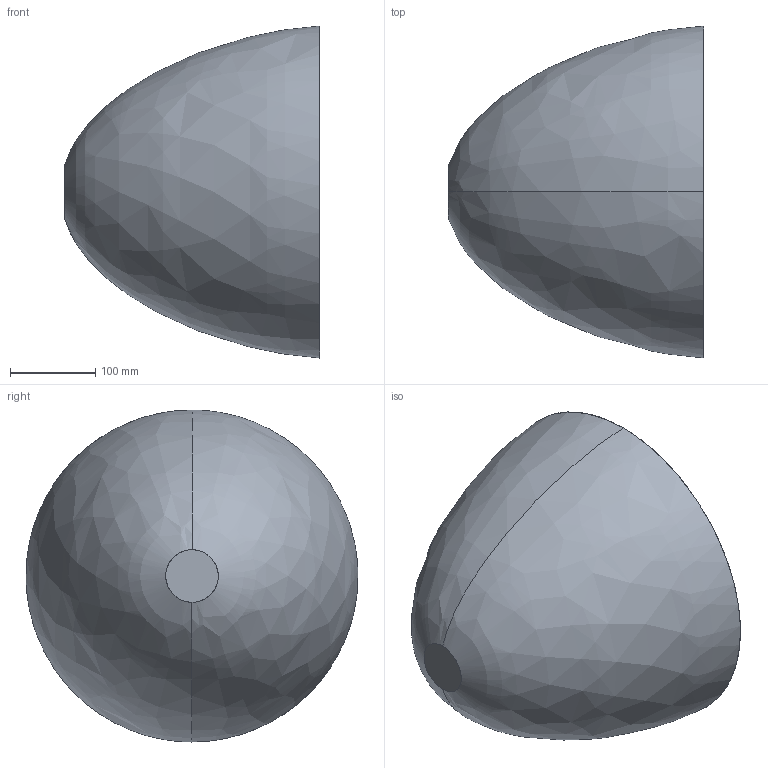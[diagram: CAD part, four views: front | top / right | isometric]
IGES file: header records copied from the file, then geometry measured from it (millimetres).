
Global section: file name: Z:\prj2.1\wind_tunnels\NTF\outgoing\NTF_Rumsey_October_2023\NTF_Arc_Sector_CameraPod_2023_10_02.igs; native system: NX V12.0; preprocessor: SIEMENS PLM Software NX 12.0; date: 20231003.102502; units: inch
Bounding box: 298.86 x 388.72 x 388.72 mm (x, y, z)
Surface area: 431610.4 mm2 (no closed solid volume)
Topology: 0 solids, 0 shells, 4 faces, 56 edges, 56 vertices
Faces by surface type: bspline 4
